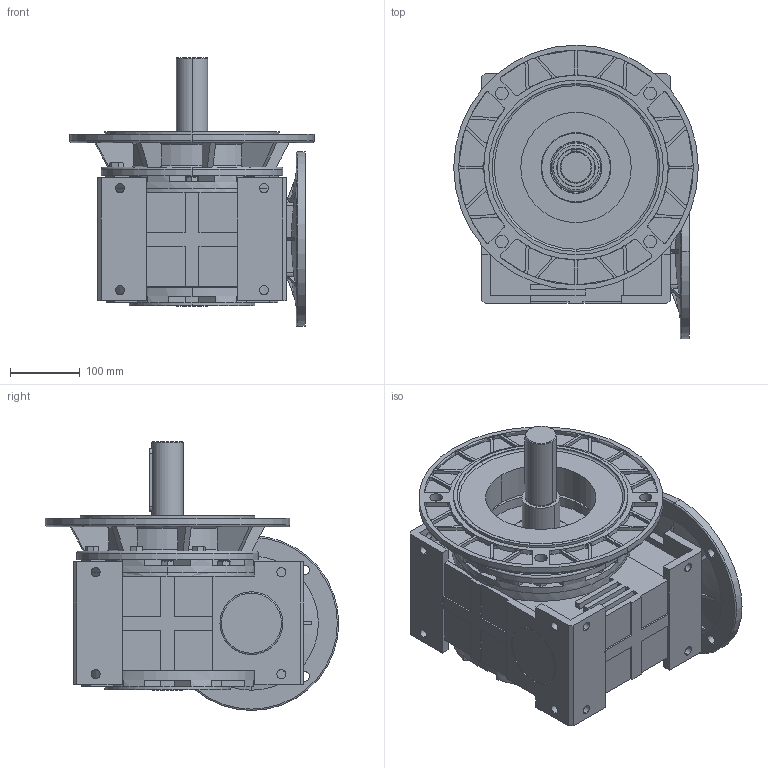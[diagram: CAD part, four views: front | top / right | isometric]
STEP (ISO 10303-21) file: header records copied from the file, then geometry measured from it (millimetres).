
FILE_DESCRIPTION (( 'STEP AP203' ), '1' );
FILE_NAME ('MR-120_M4_250.STEP', '2010-01-22T07:04:44', ( 'user3' ), ( '' ), 'SwSTEP 2.0', 'SolidWorks 2009', '' );
FILE_SCHEMA (( 'CONFIG_CONTROL_DESIGN' ));
Length unit declared in the file: millimetre
Products named in the file (1): MR-120_M4_250
Bounding box: 350 x 420 x 385 mm (x, y, z)
Volume: 9750931.9 mm3; surface area: 1670789 mm2
Topology: 29 solids, 29 shells, 1590 faces, 4120 edges, 2672 vertices
Faces by surface type: plane 727, cylinder 632, cone 151, torus 80
Entity records: 50841 total; most frequent: CARTESIAN_POINT 10739, DIRECTION 8698, ORIENTED_EDGE 8172, EDGE_CURVE 4086, AXIS2_PLACEMENT_3D 3303, VERTEX_POINT 2672, VECTOR 2092, LINE 2092
